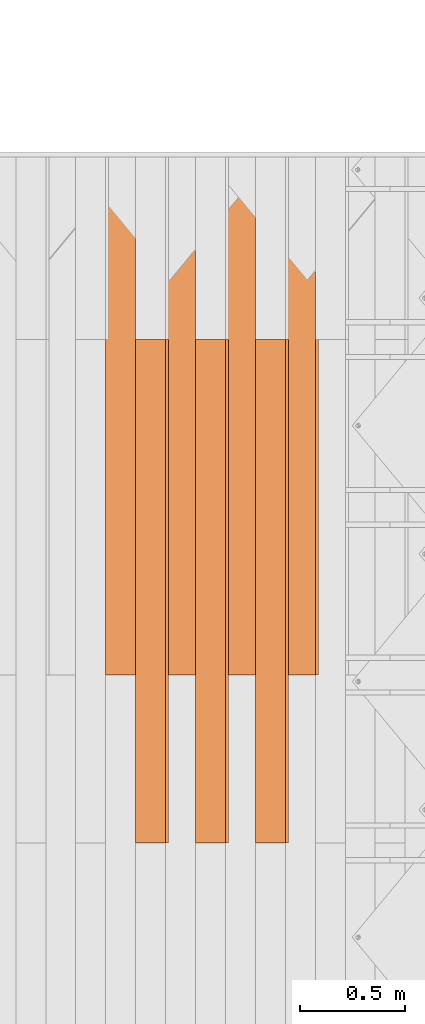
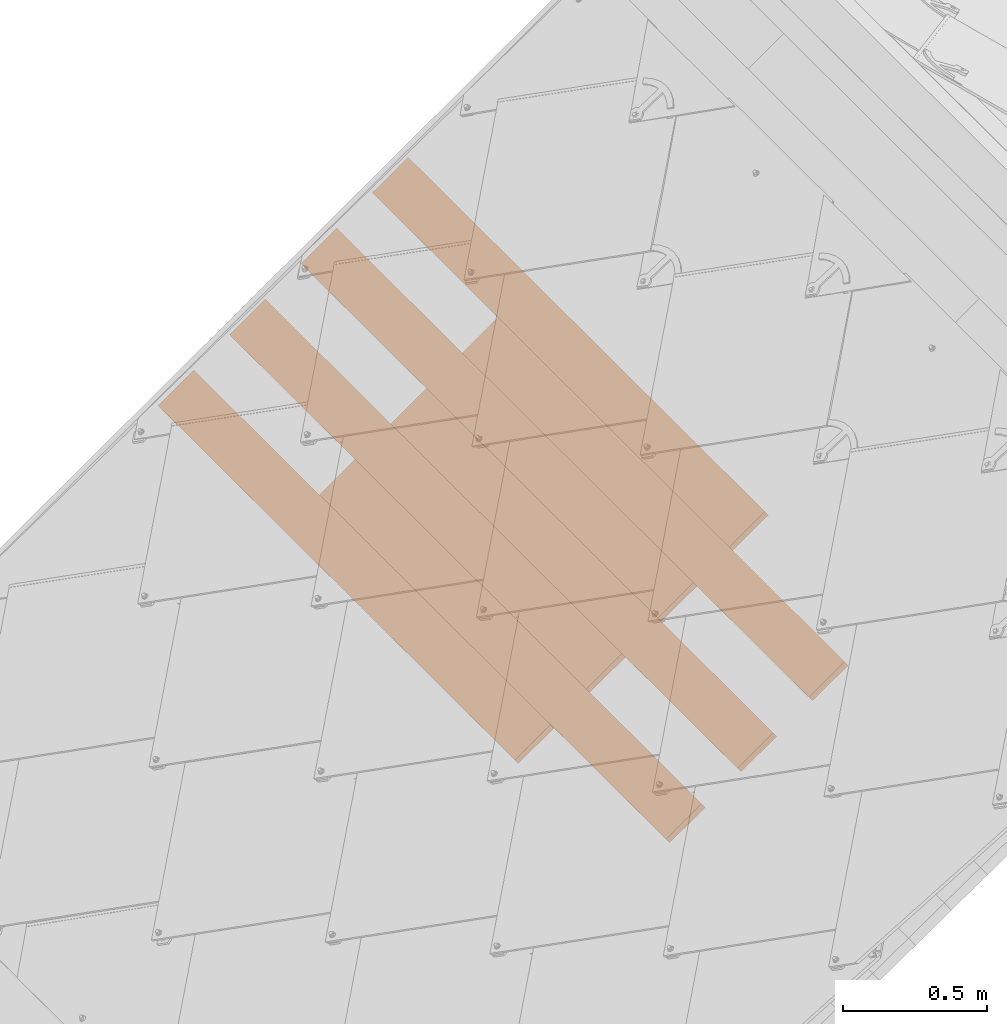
# One storey, part 54 of 133: 7 proxies, 1 element without a shape of its own.
"""IFC2X3 building model written with IfcOpenShell, lengths in millimetres."""

from ifc_helpers import new_model, entity, si_unit, converted_unit, derived_unit, direction, frame, frame_2d, origin, place, context, subcontext, project, spatial, rectangle, extrude, source, transform, mapped, material, type_object, type_shapes, element, aggregate, save


model = new_model("IFC2X3")

# Units and contexts
model_context = context("Model", 3, precision=0.01, world=origin(), true_north=direction((6.12303176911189e-17, 1.0)))
body_context = subcontext(model_context, "Body", "Model", "MODEL_VIEW")
ifc_project = project(units=[si_unit("LENGTHUNIT", "METRE", prefix="MILLI"), si_unit("AREAUNIT", "SQUARE_METRE"), si_unit("VOLUMEUNIT", "CUBIC_METRE"), converted_unit("PLANEANGLEUNIT", "DEGREE", entity("IfcRatioMeasure", 0.0174532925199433), si_unit("PLANEANGLEUNIT", "RADIAN"), dimensions=[0, 0, 0, 0, 0, 0, 0]), si_unit("MASSUNIT", "GRAM", prefix="KILO"), derived_unit("MASSDENSITYUNIT", [(si_unit("MASSUNIT", "GRAM", prefix="KILO"), 1), (si_unit("LENGTHUNIT", "METRE"), -3)]), si_unit("TIMEUNIT", "SECOND"), si_unit("FREQUENCYUNIT", "HERTZ"), si_unit("THERMODYNAMICTEMPERATUREUNIT", "DEGREE_CELSIUS"), derived_unit("THERMALTRANSMITTANCEUNIT", [(si_unit("MASSUNIT", "GRAM", prefix="KILO"), 1), (si_unit("THERMODYNAMICTEMPERATUREUNIT", "KELVIN"), -1), (si_unit("TIMEUNIT", "SECOND"), -3)]), derived_unit("VOLUMETRICFLOWRATEUNIT", [(si_unit("LENGTHUNIT", "METRE"), 3), (si_unit("TIMEUNIT", "SECOND"), -1)]), si_unit("ELECTRICCURRENTUNIT", "AMPERE"), si_unit("ELECTRICVOLTAGEUNIT", "VOLT"), si_unit("POWERUNIT", "WATT"), si_unit("FORCEUNIT", "NEWTON", prefix="KILO"), si_unit("ILLUMINANCEUNIT", "LUX"), si_unit("LUMINOUSFLUXUNIT", "LUMEN"), si_unit("LUMINOUSINTENSITYUNIT", "CANDELA"), derived_unit("USERDEFINED", [(si_unit("MASSUNIT", "GRAM", prefix="KILO"), -1), (si_unit("LENGTHUNIT", "METRE"), -2), (si_unit("TIMEUNIT", "SECOND"), 3), (si_unit("LUMINOUSFLUXUNIT", "LUMEN"), 1)]), derived_unit("LINEARVELOCITYUNIT", [(si_unit("LENGTHUNIT", "METRE"), 1), (si_unit("TIMEUNIT", "SECOND"), -1)]), si_unit("PRESSUREUNIT", "PASCAL"), derived_unit("USERDEFINED", [(si_unit("LENGTHUNIT", "METRE"), -2), (si_unit("MASSUNIT", "GRAM", prefix="KILO"), 1), (si_unit("TIMEUNIT", "SECOND"), -2)])], contexts=[model_context])

# Site, building, storey
site_placement = place(None, origin())
site = spatial("IfcSite", under=ifc_project, at=site_placement, Name="Default", CompositionType="ELEMENT")
building_placement = place(site_placement, origin())
building = spatial("IfcBuilding", under=site, at=building_placement, CompositionType="ELEMENT")
storey_placement = place(building_placement, origin())
storey = spatial("IfcBuildingStorey", under=building, at=storey_placement, Name="Level 1", CompositionType="ELEMENT", Elevation=0.0)

# Assembly, proxies
assembly_placement = place(storey_placement, origin())
assembly = element("IfcElementAssembly", 1, at=assembly_placement, inside=storey, Name="Structural Framing Assembly:Roof Construction Assembly", ObjectType="Structural Framing Assembly:Roof Construction Assembly", AssemblyPlace="NOTDEFINED", PredefinedType="USERDEFINED")
ifc_material = material(Name="Wood - Generic - Wood For Showcase")
building_element_proxy_type_1 = type_object("IfcBuildingElementProxyType", Name="Structural Framing 15", PredefinedType="NOTDEFINED", material=ifc_material)
shared_shape_1 = source(origin(), body_context, "Body", "SweptSolid", [
    extrude(rectangle(XDim=24.9999999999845, YDim=174.344679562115, at=frame_2d((-1.77635683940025e-13, -4.54747350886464e-13), x_axis=(0.0, 1.0))), frame((1128.20180147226, 1455.55080214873, 2760.23940055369), z_axis=(0.0, 1.0, 0.0), x_axis=(-0.819152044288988, 0.0, -0.573576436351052)), (0.0, 0.0, 1.0), 2469.99999999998),
])
type_shapes(building_element_proxy_type_1, [shared_shape_1])
proxy_1_placement = place(assembly_placement, frame((-1142.51840539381, 0.0, -800.0)))
proxy_1 = element("IfcBuildingElementProxy", 2, at=proxy_1_placement, type_object=building_element_proxy_type_1, material=ifc_material, Name="Structural Framing 55:Structural Framing 15", ObjectType="Structural Framing 55:Structural Framing 15", context=body_context, shape_type="MappedRepresentation", body=[
    mapped(shared_shape_1, transform((0.0, 0.0, 0.0), scale=1.0)),
])
building_element_proxy_type_2 = type_object("IfcBuildingElementProxyType", Name="Structural Framing 15", PredefinedType="NOTDEFINED", material=ifc_material)
shared_shape_2 = source(origin(), body_context, "Body", "SweptSolid", [
    extrude(rectangle(XDim=24.9999999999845, YDim=174.344679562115, at=frame_2d((-1.77635683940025e-13, -4.54747350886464e-13), x_axis=(0.0, 1.0))), frame((1128.20180147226, 1525.55080214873, 2760.23940055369), z_axis=(0.0, 1.0, 0.0), x_axis=(-0.819152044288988, 0.0, -0.573576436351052)), (0.0, 0.0, 1.0), 2399.99999999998),
])
type_shapes(building_element_proxy_type_2, [shared_shape_2])
proxy_2_placement = place(assembly_placement, frame((-1285.33320606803, -870.0, -900.0)))
proxy_2 = element("IfcBuildingElementProxy", 3, at=proxy_2_placement, type_object=building_element_proxy_type_2, material=ifc_material, Name="Structural Framing 60:Structural Framing 15", ObjectType="Structural Framing 60:Structural Framing 15", context=body_context, shape_type="MappedRepresentation", body=[
    mapped(shared_shape_2, transform((0.0, 0.0, 0.0), scale=1.0)),
])
building_element_proxy_type_3 = type_object("IfcBuildingElementProxyType", Name="Structural Framing 15", PredefinedType="NOTDEFINED", material=ifc_material)
shared_shape_3 = source(origin(), body_context, "Body", "SweptSolid", [
    extrude(rectangle(XDim=24.9999999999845, YDim=174.344679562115, at=frame_2d((-1.77635683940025e-13, -4.54747350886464e-13), x_axis=(0.0, 1.0))), frame((1128.20180147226, 1455.55080214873, 2760.23940055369), z_axis=(0.0, 1.0, 0.0), x_axis=(-0.819152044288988, 0.0, -0.573576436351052)), (0.0, 0.0, 1.0), 2469.99999999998),
])
type_shapes(building_element_proxy_type_3, [shared_shape_3])
proxy_3_placement = place(assembly_placement, frame((-1428.14800674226, 0.0, -1000.0)))
proxy_3 = element("IfcBuildingElementProxy", 4, at=proxy_3_placement, type_object=building_element_proxy_type_3, material=ifc_material, Name="Structural Framing 65:Structural Framing 15", ObjectType="Structural Framing 65:Structural Framing 15", context=body_context, shape_type="MappedRepresentation", body=[
    mapped(shared_shape_3, transform((0.0, 0.0, 0.0), scale=1.0)),
])
building_element_proxy_type_4 = type_object("IfcBuildingElementProxyType", Name="Structural Framing 15", PredefinedType="NOTDEFINED", material=ifc_material)
shared_shape_4 = source(origin(), body_context, "Body", "SweptSolid", [
    extrude(rectangle(XDim=24.9999999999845, YDim=174.344679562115, at=frame_2d((-1.77635683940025e-13, -4.54747350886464e-13), x_axis=(0.0, 1.0))), frame((1128.20180147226, 1525.55080214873, 2760.23940055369), z_axis=(0.0, 1.0, 0.0), x_axis=(-0.819152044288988, 0.0, -0.573576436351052)), (0.0, 0.0, 1.0), 2399.99999999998),
])
type_shapes(building_element_proxy_type_4, [shared_shape_4])
proxy_4_placement = place(assembly_placement, frame((-1570.96280741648, -870.0, -1100.0)))
proxy_4 = element("IfcBuildingElementProxy", 5, at=proxy_4_placement, type_object=building_element_proxy_type_4, material=ifc_material, Name="Structural Framing 70:Structural Framing 15", ObjectType="Structural Framing 70:Structural Framing 15", context=body_context, shape_type="MappedRepresentation", body=[
    mapped(shared_shape_4, transform((0.0, 0.0, 0.0), scale=1.0)),
])
building_element_proxy_type_5 = type_object("IfcBuildingElementProxyType", Name="Structural Framing 15", PredefinedType="NOTDEFINED", material=ifc_material)
shared_shape_5 = source(origin(), body_context, "Body", "SweptSolid", [
    extrude(rectangle(XDim=24.9999999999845, YDim=174.344679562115, at=frame_2d((-1.77635683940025e-13, -4.54747350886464e-13), x_axis=(0.0, 1.0))), frame((1128.20180147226, 1455.55080214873, 2760.23940055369), z_axis=(0.0, 1.0, 0.0), x_axis=(-0.819152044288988, 0.0, -0.573576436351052)), (0.0, 0.0, 1.0), 2469.99999999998),
])
type_shapes(building_element_proxy_type_5, [shared_shape_5])
proxy_5_placement = place(assembly_placement, frame((-1713.77760809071, 0.0, -1200.0)))
proxy_5 = element("IfcBuildingElementProxy", 6, at=proxy_5_placement, type_object=building_element_proxy_type_5, material=ifc_material, Name="Structural Framing 75:Structural Framing 15", ObjectType="Structural Framing 75:Structural Framing 15", context=body_context, shape_type="MappedRepresentation", body=[
    mapped(shared_shape_5, transform((0.0, 0.0, 0.0), scale=1.0)),
])
building_element_proxy_type_6 = type_object("IfcBuildingElementProxyType", Name="Structural Framing 15", PredefinedType="NOTDEFINED", material=ifc_material)
shared_shape_6 = source(origin(), body_context, "Body", "SweptSolid", [
    extrude(rectangle(XDim=24.9999999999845, YDim=174.344679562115, at=frame_2d((-1.77635683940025e-13, -4.54747350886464e-13), x_axis=(0.0, 1.0))), frame((1128.20180147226, 1525.55080214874, 2760.23940055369), z_axis=(0.0, 1.0, 0.0), x_axis=(-0.819152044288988, 0.0, -0.573576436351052)), (0.0, 0.0, 1.0), 2399.99999999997),
])
type_shapes(building_element_proxy_type_6, [shared_shape_6])
proxy_6_placement = place(assembly_placement, frame((-1856.59240876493, -870.0, -1300.0)))
proxy_6 = element("IfcBuildingElementProxy", 7, at=proxy_6_placement, type_object=building_element_proxy_type_6, material=ifc_material, Name="Structural Framing 80:Structural Framing 15", ObjectType="Structural Framing 80:Structural Framing 15", context=body_context, shape_type="MappedRepresentation", body=[
    mapped(shared_shape_6, transform((0.0, 0.0, 0.0), scale=1.0)),
])
building_element_proxy_type_7 = type_object("IfcBuildingElementProxyType", Name="Structural Framing 15", PredefinedType="NOTDEFINED", material=ifc_material)
shared_shape_7 = source(origin(), body_context, "Body", "SweptSolid", [
    extrude(rectangle(XDim=24.9999999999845, YDim=174.344679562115, at=frame_2d((-1.77635683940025e-13, -4.54747350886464e-13), x_axis=(0.0, 1.0))), frame((1128.20180147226, 1455.55080214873, 2760.23940055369), z_axis=(0.0, 1.0, 0.0), x_axis=(-0.819152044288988, 0.0, -0.573576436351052)), (0.0, 0.0, 1.0), 2469.99999999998),
])
type_shapes(building_element_proxy_type_7, [shared_shape_7])
proxy_7_placement = place(assembly_placement, frame((-1999.40720943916, 0.0, -1400.0)))
proxy_7 = element("IfcBuildingElementProxy", 8, at=proxy_7_placement, type_object=building_element_proxy_type_7, material=ifc_material, Name="Structural Framing 85:Structural Framing 15", ObjectType="Structural Framing 85:Structural Framing 15", context=body_context, shape_type="MappedRepresentation", body=[
    mapped(shared_shape_7, transform((0.0, 0.0, 0.0), scale=1.0)),
])
aggregate(assembly, [proxy_1, proxy_2, proxy_3, proxy_4, proxy_5, proxy_6, proxy_7])

save(model, "model.ifc")
